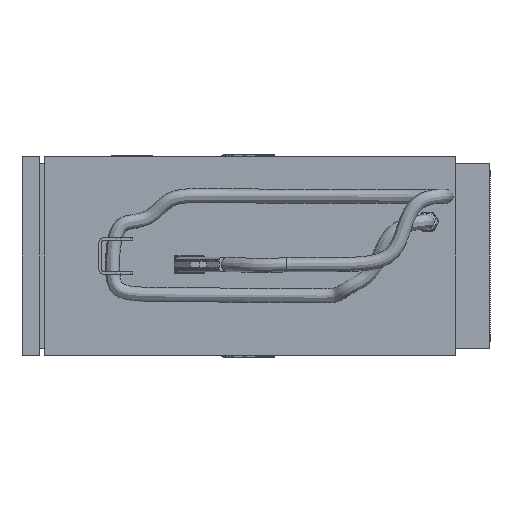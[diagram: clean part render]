
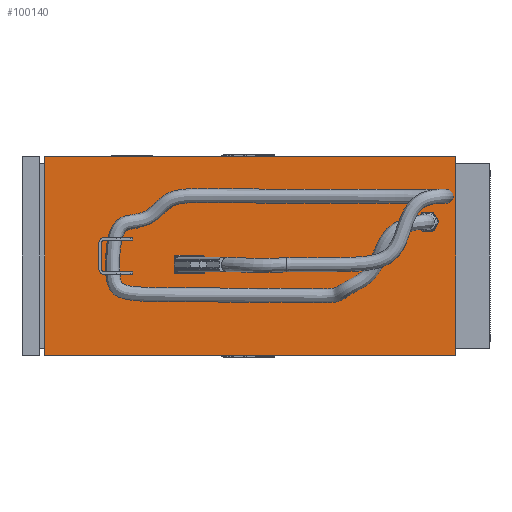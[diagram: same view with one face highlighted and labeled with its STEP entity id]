
A CAD part, left-side view. The second image highlights one B-rep face of the part: STEP entity #100140.
In plain terms, the highlighted planar face has unit normal (-1, 0, 0).
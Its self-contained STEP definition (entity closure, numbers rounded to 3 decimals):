
#12304=FACE_OUTER_BOUND('',#17800,.T.);
#17800=EDGE_LOOP('',(#66847,#66848,#66849,#66850));
#23718=LINE('',#140987,#32743);
#23719=LINE('',#140989,#32744);
#23720=LINE('',#140991,#32745);
#23721=LINE('',#140992,#32746);
#32743=VECTOR('',#114769,10.);
#32744=VECTOR('',#114770,10.);
#32745=VECTOR('',#114771,10.);
#32746=VECTOR('',#114772,10.);
#41749=VERTEX_POINT('',#140985);
#41750=VERTEX_POINT('',#140986);
#41751=VERTEX_POINT('',#140988);
#41752=VERTEX_POINT('',#140990);
#51710=EDGE_CURVE('',#41749,#41750,#23718,.T.);
#51711=EDGE_CURVE('',#41750,#41751,#23719,.T.);
#51712=EDGE_CURVE('',#41752,#41751,#23720,.T.);
#51713=EDGE_CURVE('',#41749,#41752,#23721,.T.);
#66847=ORIENTED_EDGE('',*,*,#51710,.T.);
#66848=ORIENTED_EDGE('',*,*,#51711,.T.);
#66849=ORIENTED_EDGE('',*,*,#51712,.F.);
#66850=ORIENTED_EDGE('',*,*,#51713,.F.);
#96715=PLANE('',#106019);
#100140=ADVANCED_FACE('',(#12304),#96715,.T.);
#106019=AXIS2_PLACEMENT_3D('',#140984,#114767,#114768);
#114767=DIRECTION('center_axis',(-1.,0.,0.));
#114768=DIRECTION('ref_axis',(0.,0.,1.));
#114769=DIRECTION('',(0.,0.,1.));
#114770=DIRECTION('',(0.,1.,0.));
#114771=DIRECTION('',(0.,0.,1.));
#114772=DIRECTION('',(0.,1.,0.));
#140984=CARTESIAN_POINT('Origin',(-250.,120.,-350.));
#140985=CARTESIAN_POINT('',(-250.,120.,-350.));
#140986=CARTESIAN_POINT('',(-250.,120.,350.));
#140987=CARTESIAN_POINT('',(-250.,120.,-350.));
#140988=CARTESIAN_POINT('',(-250.,1570.,350.));
#140989=CARTESIAN_POINT('',(-250.,120.,350.));
#140990=CARTESIAN_POINT('',(-250.,1570.,-350.));
#140991=CARTESIAN_POINT('',(-250.,1570.,-350.));
#140992=CARTESIAN_POINT('',(-250.,120.,-350.));
